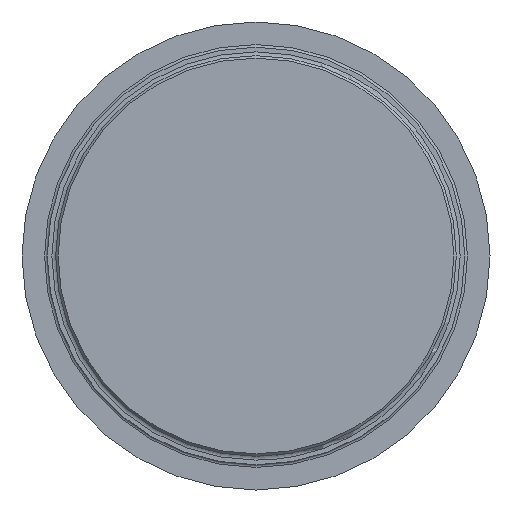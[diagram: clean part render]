
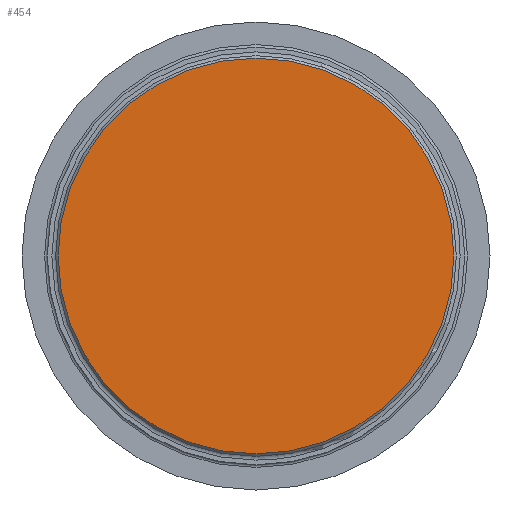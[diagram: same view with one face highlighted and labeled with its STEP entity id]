
A CAD part, front view. The second image highlights one B-rep face of the part: STEP entity #454.
In plain terms, the highlighted planar face has unit normal (0, -1, 0).
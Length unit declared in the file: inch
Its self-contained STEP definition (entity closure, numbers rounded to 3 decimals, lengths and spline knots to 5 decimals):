
#26=PLANE('',#553);
#85=FACE_OUTER_BOUND('',#114,.T.);
#114=EDGE_LOOP('',(#423,#424));
#168=CIRCLE('',#545,2.167);
#169=CIRCLE('',#546,2.167);
#219=VERTEX_POINT('',#1055);
#220=VERTEX_POINT('',#1057);
#287=EDGE_CURVE('',#219,#220,#168,.T.);
#288=EDGE_CURVE('',#220,#219,#169,.T.);
#423=ORIENTED_EDGE('',*,*,#288,.F.);
#424=ORIENTED_EDGE('',*,*,#287,.F.);
#454=ADVANCED_FACE('',(#85),#26,.F.);
#545=AXIS2_PLACEMENT_3D('',#1058,#707,#708);
#546=AXIS2_PLACEMENT_3D('',#1059,#709,#710);
#553=AXIS2_PLACEMENT_3D('',#1066,#723,#724);
#707=DIRECTION('center_axis',(0.,1.,0.));
#708=DIRECTION('ref_axis',(0.,0.,1.));
#709=DIRECTION('center_axis',(0.,1.,0.));
#710=DIRECTION('ref_axis',(0.,0.,1.));
#723=DIRECTION('center_axis',(0.,1.,0.));
#724=DIRECTION('ref_axis',(0.,0.,1.));
#1055=CARTESIAN_POINT('',(0.,-0.63,-2.167));
#1057=CARTESIAN_POINT('',(0.,-0.63,2.167));
#1058=CARTESIAN_POINT('Origin',(0.,-0.63,0.));
#1059=CARTESIAN_POINT('Origin',(0.,-0.63,0.));
#1066=CARTESIAN_POINT('Origin',(2.2855,-0.63,0.));
